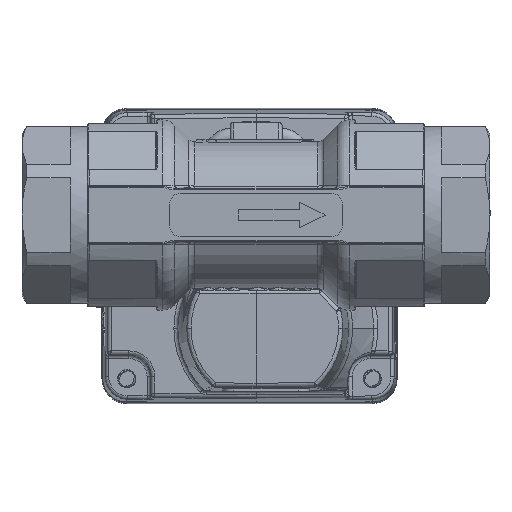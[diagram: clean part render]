
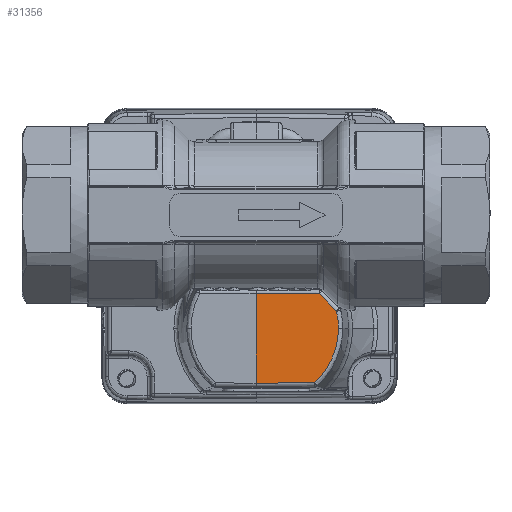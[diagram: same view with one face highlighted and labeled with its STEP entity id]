
A CAD part, front view. The second image highlights one B-rep face of the part: STEP entity #31356.
In plain terms, the highlighted planar face has unit normal (0.009, -1, 0).
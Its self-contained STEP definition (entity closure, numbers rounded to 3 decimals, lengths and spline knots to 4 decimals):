
#1452 = VERTEX_POINT ( 'NONE', #63149 ) ;
#6200 = CARTESIAN_POINT ( 'NONE',  ( 0.0007, -0.8074, -0.0001 ) ) ;
#9160 = ORIENTED_EDGE ( 'NONE', *, *, #125504, .T. ) ;
#13418 =( BOUNDED_CURVE ( )  B_SPLINE_CURVE ( 3, ( #17678, #48316, #115148, #113043 ),
 .UNSPECIFIED., .F., .T. ) 
 B_SPLINE_CURVE_WITH_KNOTS ( ( 4, 4 ),
 ( 5.451, 6.2832 ),
 .UNSPECIFIED. ) 
 CURVE ( )  GEOMETRIC_REPRESENTATION_ITEM ( )  RATIONAL_B_SPLINE_CURVE ( ( 1., 0.943, 0.943, 1. ) ) 
 REPRESENTATION_ITEM ( '' )  );
#14018 = DIRECTION ( 'NONE',  ( -1., -0.009, 0. ) ) ;
#17596 = ORIENTED_EDGE ( 'NONE', *, *, #116490, .T. ) ;
#17678 = CARTESIAN_POINT ( 'NONE',  ( 0.3377, -0.8044, -0.9702 ) ) ;
#18742 = AXIS2_PLACEMENT_3D ( 'NONE', #76911, #120981, #98922 ) ;
#19164 = VERTEX_POINT ( 'NONE', #61046 ) ;
#22190 = ORIENTED_EDGE ( 'NONE', *, *, #51195, .T. ) ;
#24023 = LINE ( 'NONE', #102179, #138430 ) ;
#25544 = EDGE_CURVE ( 'NONE', #1452, #81203, #85771, .T. ) ;
#31356 = ADVANCED_FACE ( 'NONE', ( #133060 ), #46281, .T. ) ;
#46281 = PLANE ( 'NONE',  #18742 ) ;
#46890 = VECTOR ( 'NONE', #47516, 39.3701 ) ;
#47516 = DIRECTION ( 'NONE',  ( 0., 0., -1. ) ) ;
#48316 = CARTESIAN_POINT ( 'NONE',  ( 0.4277, -0.8036, -0.8882 ) ) ;
#49712 = B_SPLINE_CURVE_WITH_KNOTS ( 'NONE', 3,
 ( #128633, #107275, #52536, #51824 ),
 .UNSPECIFIED., .F., .F.,
 ( 4, 4 ),
 ( 0., 0.0037 ),
 .UNSPECIFIED. ) ;
#51195 = EDGE_CURVE ( 'NONE', #68308, #1452, #13418, .T. ) ;
#51824 = CARTESIAN_POINT ( 'NONE',  ( 0.3644, -0.8042, -0.4548 ) ) ;
#52369 = CARTESIAN_POINT ( 'NONE',  ( 0.4656, -0.8033, -0.5575 ) ) ;
#52536 = CARTESIAN_POINT ( 'NONE',  ( 0.3981, -0.8039, -0.4891 ) ) ;
#56164 = CARTESIAN_POINT ( 'NONE',  ( 0.4731, -0.8032, -0.5896 ) ) ;
#56315 = LINE ( 'NONE', #86210, #93807 ) ;
#60379 = EDGE_CURVE ( 'NONE', #19164, #69197, #79541, .T. ) ;
#61046 = CARTESIAN_POINT ( 'NONE',  ( 0.0007, -0.8074, -0.4548 ) ) ;
#63149 = CARTESIAN_POINT ( 'NONE',  ( 0.4769, -0.8032, -0.6551 ) ) ;
#64013 = CARTESIAN_POINT ( 'NONE',  ( 0.3377, -0.8044, -0.9702 ) ) ;
#68308 = VERTEX_POINT ( 'NONE', #64013 ) ;
#69197 = VERTEX_POINT ( 'NONE', #130960 ) ;
#71233 = EDGE_CURVE ( 'NONE', #69197, #68308, #56315, .T. ) ;
#76911 = CARTESIAN_POINT ( 'NONE',  ( 0.0005, -0.8074, -0.0001 ) ) ;
#79541 = LINE ( 'NONE', #6200, #46890 ) ;
#81203 = VERTEX_POINT ( 'NONE', #52369 ) ;
#85771 =( BOUNDED_CURVE ( )  B_SPLINE_CURVE ( 3, ( #122250, #131548, #56164, #122937 ),
 .UNSPECIFIED., .F., .T. ) 
 B_SPLINE_CURVE_WITH_KNOTS ( ( 4, 4 ),
 ( 0., 0.2311 ),
 .UNSPECIFIED. ) 
 CURVE ( )  GEOMETRIC_REPRESENTATION_ITEM ( )  RATIONAL_B_SPLINE_CURVE ( ( 1., 0.996, 0.996, 1. ) ) 
 REPRESENTATION_ITEM ( '' )  );
#86210 = CARTESIAN_POINT ( 'NONE',  ( 0.3364, -0.8044, -0.9702 ) ) ;
#88989 = DIRECTION ( 'NONE',  ( 1., 0.009, 0.009 ) ) ;
#93807 = VECTOR ( 'NONE', #88989, 39.3701 ) ;
#98922 = DIRECTION ( 'NONE',  ( -1., -0.009, 0. ) ) ;
#101387 = VERTEX_POINT ( 'NONE', #101773 ) ;
#101773 = CARTESIAN_POINT ( 'NONE',  ( 0.3644, -0.8042, -0.4548 ) ) ;
#102179 = CARTESIAN_POINT ( 'NONE',  ( 0.0005, -0.8074, -0.4548 ) ) ;
#102616 = ORIENTED_EDGE ( 'NONE', *, *, #71233, .T. ) ;
#103462 = ORIENTED_EDGE ( 'NONE', *, *, #60379, .T. ) ;
#107275 = CARTESIAN_POINT ( 'NONE',  ( 0.4318, -0.8036, -0.5233 ) ) ;
#113043 = CARTESIAN_POINT ( 'NONE',  ( 0.4769, -0.8032, -0.6551 ) ) ;
#115148 = CARTESIAN_POINT ( 'NONE',  ( 0.4769, -0.8032, -0.7769 ) ) ;
#116490 = EDGE_CURVE ( 'NONE', #81203, #101387, #49712, .T. ) ;
#116977 = ORIENTED_EDGE ( 'NONE', *, *, #25544, .T. ) ;
#120981 = DIRECTION ( 'NONE',  ( 0.009, -1., 0. ) ) ;
#122250 = CARTESIAN_POINT ( 'NONE',  ( 0.4769, -0.8032, -0.6551 ) ) ;
#122937 = CARTESIAN_POINT ( 'NONE',  ( 0.4656, -0.8033, -0.5575 ) ) ;
#125504 = EDGE_CURVE ( 'NONE', #101387, #19164, #24023, .T. ) ;
#128633 = CARTESIAN_POINT ( 'NONE',  ( 0.4656, -0.8033, -0.5575 ) ) ;
#130960 = CARTESIAN_POINT ( 'NONE',  ( 0.0007, -0.8074, -0.9731 ) ) ;
#131548 = CARTESIAN_POINT ( 'NONE',  ( 0.4769, -0.8032, -0.6222 ) ) ;
#133060 = FACE_OUTER_BOUND ( 'NONE', #140265, .T. ) ;
#138430 = VECTOR ( 'NONE', #14018, 39.3701 ) ;
#140265 = EDGE_LOOP ( 'NONE', ( #9160, #103462, #102616, #22190, #116977, #17596 ) ) ;
